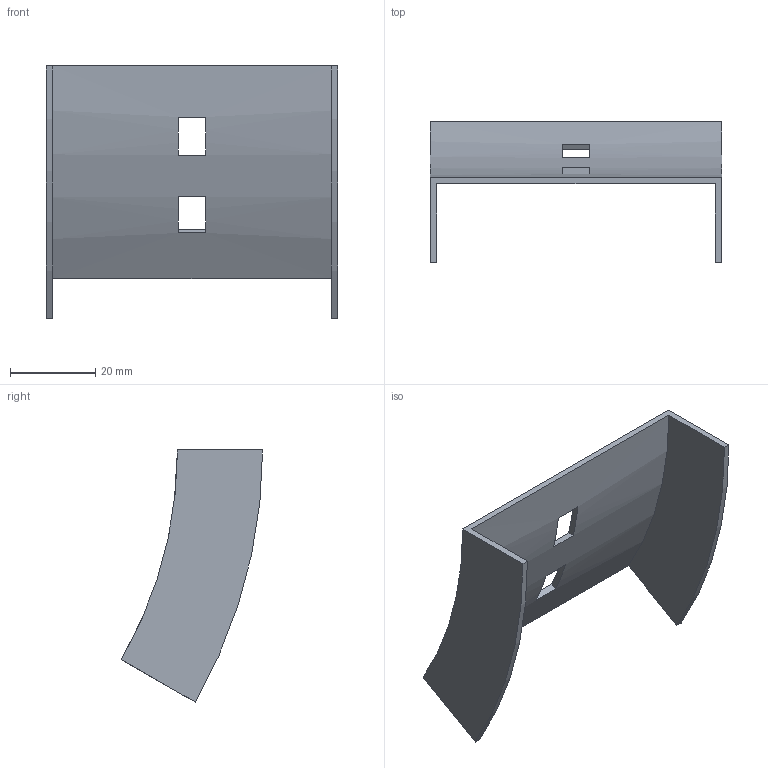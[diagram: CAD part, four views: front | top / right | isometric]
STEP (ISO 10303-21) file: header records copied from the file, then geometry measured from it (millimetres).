
FILE_DESCRIPTION (( 'STEP AP214' ), '1' );
FILE_NAME ('32N1R065.step', '2025-02-21T09:22:08', ( '' ), ( '' ), 'SwSTEP 2.0', 'SolidWorks 2023', '' );
FILE_SCHEMA (( 'AUTOMOTIVE_DESIGN' ));
Length unit declared in the file: millimetre
Products named in the file (1): 32N1R065
Bounding box: 68.5 x 33.2 x 59.25 mm (x, y, z)
Volume: 8336.4 mm3; surface area: 11711 mm2
Topology: 1 solids, 1 shells, 18 faces, 48 edges, 32 vertices
Faces by surface type: plane 14, cylinder 4
Entity records: 599 total; most frequent: DIRECTION 102, CARTESIAN_POINT 99, ORIENTED_EDGE 96, EDGE_CURVE 48, AXIS2_PLACEMENT_3D 35, LINE 32, VERTEX_POINT 32, VECTOR 32
